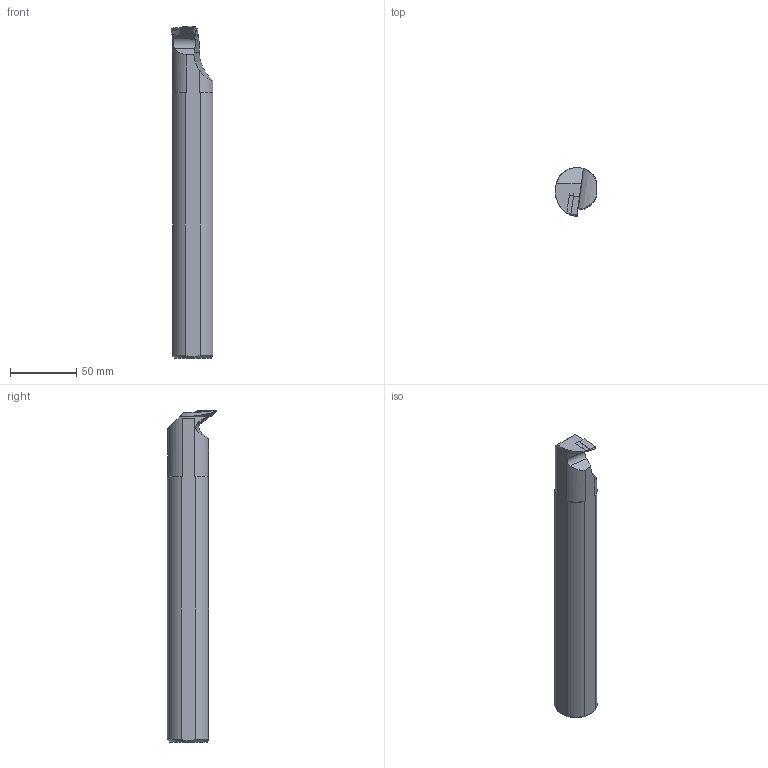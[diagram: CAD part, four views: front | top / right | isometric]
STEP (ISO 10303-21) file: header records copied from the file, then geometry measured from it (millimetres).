
FILE_DESCRIPTION(/* description */ (''),/* implementation_level */ '2;1');
FILE_NAME(/* name */ 'A32S-SVUBR-16-HAAS-.stp',/* time_stamp */ '2021-09-28T12:17:42+09:00',/* author */ (''),/* organization */ (''),/* preprocessor_version */ 'ST-DEVELOPER v11',/* originating_system */ 'SIEMENS UGS NX 6.0',/* authorisation */ '');
FILE_SCHEMA (('CONFIG_CONTROL_DESIGN'));
Length unit declared in the file: millimetre
Products named in the file (1): user19614c4a
Bounding box: 31.22 x 37.15 x 249.93 mm (x, y, z)
Volume: 182591.6 mm3; surface area: 26487.2 mm2
Topology: 3 solids, 3 shells, 43 faces, 112 edges, 75 vertices
Faces by surface type: plane 22, cylinder 13, cone 7, bspline 1
Full cylindrical faces by diameter (mm): 4.4 x1, 5.4 x1
Entity records: 1472 total; most frequent: CARTESIAN_POINT 351, ORIENTED_EDGE 212, DIRECTION 212, EDGE_CURVE 106, AXIS2_PLACEMENT_3D 79, VERTEX_POINT 72, LINE 54, VECTOR 54
